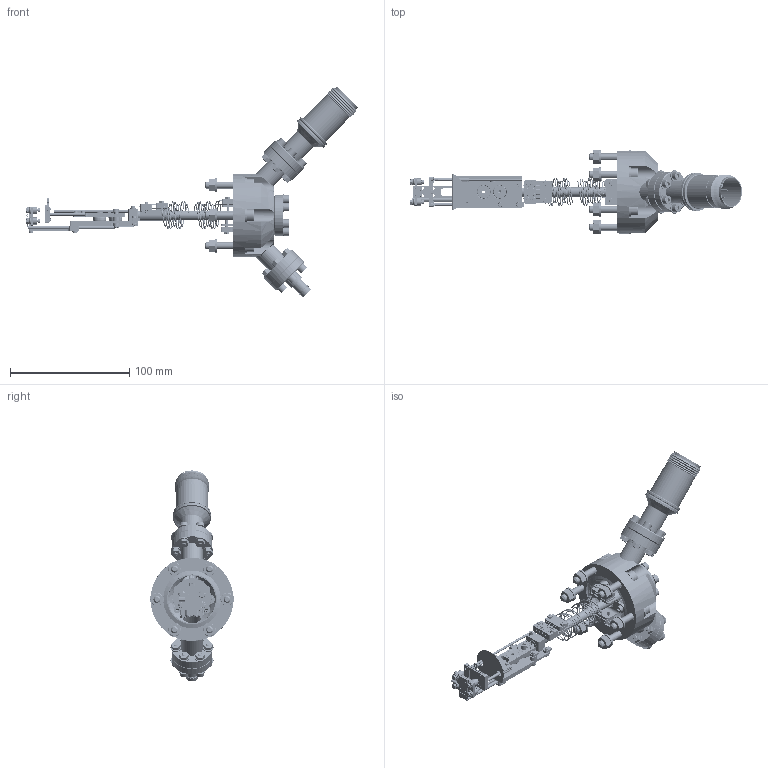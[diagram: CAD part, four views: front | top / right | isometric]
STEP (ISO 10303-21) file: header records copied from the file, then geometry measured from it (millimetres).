
FILE_DESCRIPTION(('Confidential','CAx-IF Rec.Pracs.--- Model Styling and Organization---1.2---2011-12-15'),'2;1');
FILE_NAME('W:\KONSTRUKTION\PRODUCTS\HS\HSAS\HSASOM\HSASOM40\HSASOM40(EB)\Step Files\HSASOM40(EB)-0171-0003_Rev_D_20230616.stp','2023-06-16T14:19:53+00:00',('none'),('Ferrovac AG'),'CATIA Version 5 Release 21 SP 6 (IN-10)','CATIA V5 STEP AP214','PROPERTY OF FERROVAC AG');
FILE_SCHEMA(('AUTOMOTIVE_DESIGN { 1 0 10303 214 1 1 1 1 }'));
Products named in the file (102): HSASOM40(EB); MPCF40X3CF16IA; MainBody_60374; TFCF16T-1_60374; ADHSASCF16INSERT-0122; 24651; 24650-0122.3; 60554; HSOMEB; HSEBBODY; 254; 473; 624; 3023; 3024; 3026; 3055; 10651; 23804; 24173; 17103010; 17102010; 18102004; 18102006; 18102008; 18102012; 18302004; 25102000; 26102000; 32103000; HSEBHEAT; 25200; HSEBHEATO3; 25201; 10658; 23808; 40017-0073; 18101608; 18302010; 26101600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
Assembly tree (205 placements, depth 6):
  HSASOM40(EB)
    MPCF40X3CF16IA
      MainBody_60374
      TFCF16T-1_60374  x2
    ADHSASCF16INSERT-0122
      24651
      24650-0122.3
      60554
    HSOMEB
      HSEBBODY
        254  x3
        473
        624
        3023
        3024
        3026
        3055
        10651  x4
        23804
        24173
        17103010
        17102010
        18102004
        18102006
        18102008  x2
        18102012
        18302004  x4
        25102000  x2
        26102000  x9
        32103000  x2
      HSEBHEAT
        25200
        HSEBHEATO3
          473  x4
          25201
          624  x4
          10658  x2
          23808
          40017-0073
          18101608  x2
          18302010  x4
          25102000  x4
          26101600  x2
          26102000  x8
          26302000  x8
          40021-0200
      HSEBRECOMO3
        RECOMHS
          SHOM
            41006(MMMM)
          3401
          23802  x2
          23803  x2
          18401403  x4
        641  x2
        40019-0062.1
    EFCF16SHV5(GSE)
      60434
    24464
    ELUCSR2MPCF  x2
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Bounding box: 277.92 x 70.7 x 176.68 mm (x, y, z)
Volume: 163023.5 mm3; surface area: 139778.2 mm2
Topology: 264 solids, 264 shells, 5257 faces, 12304 edges, 7743 vertices
Faces by surface type: cylinder 2235, plane 1784, cone 570, torus 476, bspline 184, extrusion 8
Entity records: 80743 total; most frequent: CARTESIAN_POINT 27502, ORIENTED_EDGE 11244, DIRECTION 8866, EDGE_CURVE 5622, AXIS2_PLACEMENT_3D 4479, VERTEX_POINT 3512, EDGE_LOOP 2834, CIRCLE 2403
